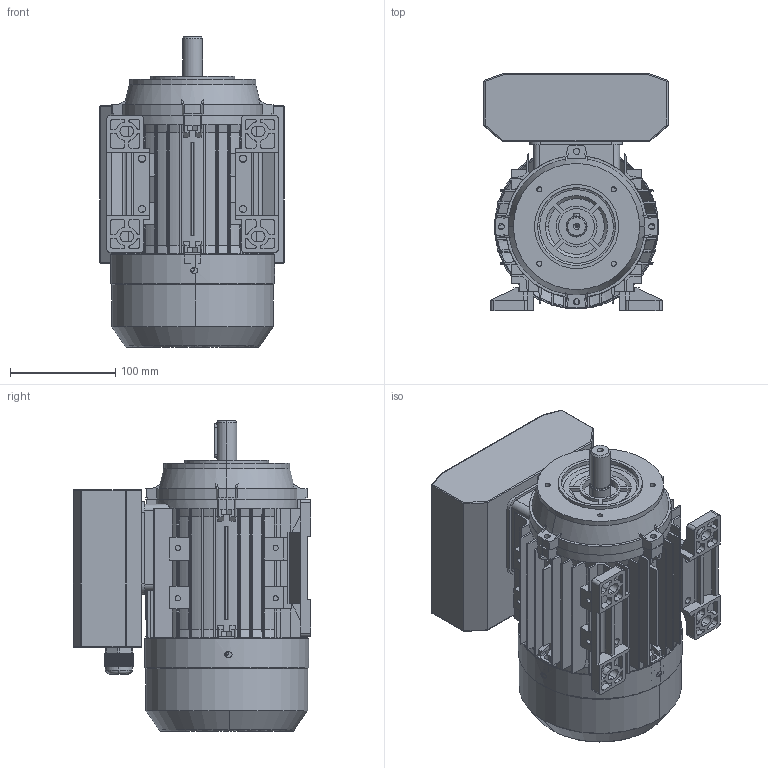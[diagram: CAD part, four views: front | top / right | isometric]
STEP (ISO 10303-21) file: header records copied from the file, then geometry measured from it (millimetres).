
FILE_DESCRIPTION (( 'STEP AP203' ), '1' );
FILE_NAME ('ML80 _B34.STEP', '2019-02-01T13:37:08', ( '' ), ( '' ), 'SwSTEP 2.0', 'SolidWorks 2012', '' );
FILE_SCHEMA (( 'CONFIG_CONTROL_DESIGN' ));
Length unit declared in the file: millimetre
Products named in the file (8): ML80 _B34; B14-Flansch_MS80; Lüfterhaube_MS80; Fuss_MS80; Kabelverschraubung_M20; Klemmenkasten_ML80; B-Lagerschild_MS80_TENV; Gehäuse_MS80
Assembly tree (8 placements, depth 2):
  ML80 _B34
    Gehäuse_MS80
    B-Lagerschild_MS80_TENV
    Klemmenkasten_ML80
    Kabelverschraubung_M20
    Fuss_MS80  x2
    Lüfterhaube_MS80
    B14-Flansch_MS80
Bounding box: 175 x 226 x 295.38 mm (x, y, z)
Volume: 2512744.1 mm3; surface area: 629709.1 mm2
Topology: 9 solids, 14 shells, 1979 faces, 5347 edges, 3440 vertices
Faces by surface type: plane 1390, cylinder 450, cone 99, bspline 24, sphere 16
Entity records: 60964 total; most frequent: CARTESIAN_POINT 13299, ORIENTED_EDGE 10014, DIRECTION 9238, EDGE_CURVE 5007, LINE 3476, VECTOR 3476, VERTEX_POINT 3222, AXIS2_PLACEMENT_3D 2881
